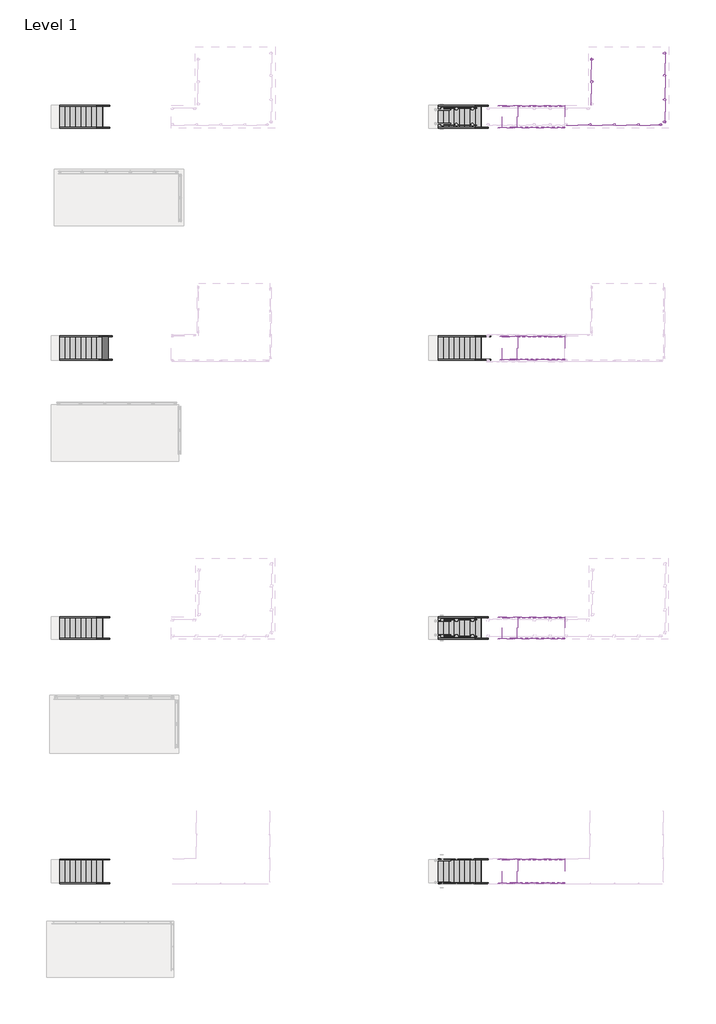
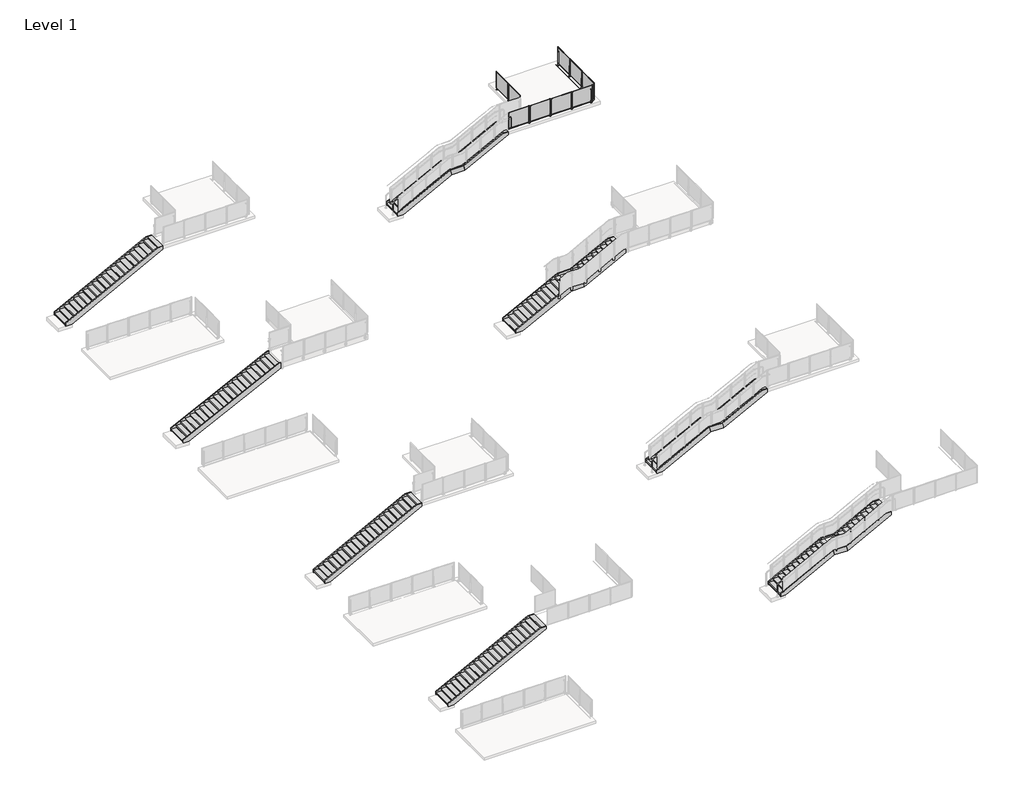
# One storey, part 28 of 28: 32 members, 12 stair flights, 4 proxies, 4 slabs, 3 railings.
"""IFC4 building model written with IfcOpenShell, lengths in millimetres."""

from ifc_helpers import new_model, si_unit, point, frame, frame_2d, origin, place, context, project, spatial, polyline, circle_curve, trimmed, segment, composite_curve, outline, extrude, transform, mapped, element, save
from components import building_element_proxy_d74b3768, building_element_proxy_bc1e0d3e, non_monolithic_landing_4f14bc7e, non_monolithic_landing_61f27d39, non_monolithic_landing_16e06536, non_monolithic_landing_1ae36870, stair_flight_dccb4828, stair_flight_ed2f0d5d, stair_flight_899ccd9d, stair_flight_947bd2ea, stair_flight_4eb0ff3a, stair_flight_83536842, stair_flight_37e924e8, stair_flight_37ca03c5, stair_flight_718682c8, stair_flight_34399b1a, stair_flight_f9da9db6, stair_flight_c7a47ad9

model = new_model("IFC4")

# Units and contexts
model_context = context("Model", 3, world=origin())
ifc_project = project(units=[si_unit("LENGTHUNIT", "METRE", prefix="MILLI")], contexts=[model_context])

# Site, building, storey
site = spatial("IfcSite", under=ifc_project)
building = spatial("IfcBuilding", under=site)
storey = spatial("IfcBuildingStorey", under=building, Name="Level 1", Elevation=0.0)

# Proxies
placement = place(None, origin())
building_element_proxy_shape = building_element_proxy_d74b3768(model_context)
element("IfcBuildingElementProxy", 1, Name="Baluster-End-Post-VIVA-STRUC-Top Mount : CORED INTO CONCRETE_TOP MOUNT STRUC_STRAIGHT", ObjectType="Baluster-End-Post-VIVA-STRUC-Top Mount : CORED INTO CONCRETE_TOP MOUNT STRUC_STRAIGHT", at=placement, inside=storey, context=model_context, shape_type="MappedRepresentation", body=[
    mapped(building_element_proxy_shape, transform((-7195.5231424, 8555.589491, 3047.492), x_axis=(0.0, 1.0, 0.0), y_axis=(-1.0, 0.0, 0.0), z_axis=(0.0, 0.0, 1.0))),
])
building_element_proxy_2_shape = building_element_proxy_bc1e0d3e(model_context)
element("IfcBuildingElementProxy", 2, Name="Baluster-End-Post-VIVA-STRUC-Top Mount : CORED INTO CONCRETE_TOP MOUNT STRUC_STRAIGHT", ObjectType="Baluster-End-Post-VIVA-STRUC-Top Mount : CORED INTO CONCRETE_TOP MOUNT STRUC_STRAIGHT", at=placement, inside=storey, context=model_context, shape_type="MappedRepresentation", body=[
    mapped(building_element_proxy_2_shape, transform((-7210.4813244, 8601.8839722, 3047.492), x_axis=(1.0, 0.0, 0.0), y_axis=(0.0, 1.0, 0.0), z_axis=(0.0, 0.0, 1.0))),
])
element("IfcBuildingElementProxy", 3, Name="Baluster-End-Post-VIVA-STRUC-Top Mount : CORED INTO CONCRETE_TOP MOUNT STRUC_STRAIGHT", ObjectType="Baluster-End-Post-VIVA-STRUC-Top Mount : CORED INTO CONCRETE_TOP MOUNT STRUC_STRAIGHT", at=placement, inside=storey, context=model_context, shape_type="MappedRepresentation", body=[
    mapped(building_element_proxy_shape, transform((-10830.7485244, 12038.7985341, 3047.492), x_axis=(0.0, -1.0, 0.0), y_axis=(1.0, 0.0, 0.0), z_axis=(0.0, 0.0, 1.0))),
])
element("IfcBuildingElementProxy", 4, Name="Baluster-End-Post-VIVA-STRUC-Top Mount : CORED INTO CONCRETE_TOP MOUNT STRUC_STRAIGHT", ObjectType="Baluster-End-Post-VIVA-STRUC-Top Mount : CORED INTO CONCRETE_TOP MOUNT STRUC_STRAIGHT", at=placement, inside=storey, context=model_context, shape_type="MappedRepresentation", body=[
    mapped(building_element_proxy_2_shape, transform((-7195.5231424, 12365.589491, 3047.492), x_axis=(0.0, 1.0, 0.0), y_axis=(-1.0, 0.0, 0.0), z_axis=(0.0, 0.0, 1.0))),
])

# Members
element("IfcMember", 5, ObjectType="Stringer - Paint - 2\" Width", at=placement, inside=storey, context=model_context, shape_type="SweptSolid", body=[
    extrude(outline(polyline([(190.3114112, -19005.2813244), (0.0, -19005.2813244), (0.0, -18682.8954208), (1513.1142857, -15770.1504208), (1830.6142857, -15847.698291), (190.3114112, -19005.2813244)])), frame((0.0, 9475.3913722, 0.0), z_axis=(0.0, 1.0, 0.0), x_axis=(0.0, 0.0, 1.0)), (0.0, 0.0, 1.0), 50.8),
])
element("IfcMember", 6, ObjectType="Stringer - Paint - 2\" Width", at=placement, inside=storey, context=model_context, shape_type="SweptSolid", body=[
    extrude(outline(polyline([(190.3114112, -19005.2813244), (0.0, -19005.2813244), (0.0, -18682.8954208), (1513.1142857, -15770.1504208), (1830.6142857, -15847.698291), (190.3114112, -19005.2813244)])), frame((0.0, 8326.1937722, 0.0), z_axis=(0.0, 1.0, 0.0), x_axis=(0.0, 0.0, 1.0)), (0.0, 0.0, 1.0), 50.8),
])
element("IfcMember", 7, ObjectType="Stringer - Paint - 2\" Width", at=placement, inside=storey, context=model_context, shape_type="SweptSolid", body=[
    extrude(outline(polyline([(1830.6142857, -15060.298291), (1513.1142857, -14982.7504208), (2880.5268033, -12350.4813244), (3048.0, -12350.4813244), (3048.0, -12716.830791), (1830.6142857, -15060.298291)])), frame((0.0, 9475.3913722, 0.0), z_axis=(0.0, 1.0, 0.0), x_axis=(0.0, 0.0, 1.0)), (0.0, 0.0, 1.0), 50.8),
])
element("IfcMember", 8, ObjectType="Stringer - Paint - 2\" Width", at=placement, inside=storey, context=model_context, shape_type="SweptSolid", body=[
    extrude(outline(polyline([(1830.6142857, -15060.298291), (1513.1142857, -14982.7504208), (2880.5268033, -12350.4813244), (3048.0, -12350.4813244), (3048.0, -12716.830791), (1830.6142857, -15060.298291)])), frame((0.0, 8326.1937722, 0.0), z_axis=(0.0, 1.0, 0.0), x_axis=(0.0, 0.0, 1.0)), (0.0, 0.0, 1.0), 50.8),
])
element("IfcMember", 9, ObjectType="Stringer - Paint - 2\" Width", at=placement, inside=storey, context=model_context, shape_type="SweptSolid", body=[
    extrude(outline(polyline([(1513.1142857, -14982.7504208), (1830.6142857, -15060.298291), (1830.6142857, -15847.698291), (1513.1142857, -15770.1504208), (1513.1142857, -14982.7504208)])), frame((0.0, 9475.3913722, 0.0), z_axis=(0.0, 1.0, 0.0), x_axis=(0.0, 0.0, 1.0)), (0.0, 0.0, 1.0), 50.8),
])
element("IfcMember", 10, ObjectType="Stringer - Paint - 2\" Width", at=placement, inside=storey, context=model_context, shape_type="SweptSolid", body=[
    extrude(outline(polyline([(190.3114112, -19005.2813244), (0.0, -19005.2813244), (0.0, -18572.6977615), (1513.1142857, -15659.9527615), (1881.4142857, -15749.908291), (190.3114112, -19005.2813244)])), frame((0.0, -2661.1276112, 0.0), z_axis=(0.0, 1.0, 0.0), x_axis=(0.0, 0.0, 1.0)), (0.0, 0.0, 1.0), 50.8),
])
element("IfcMember", 11, ObjectType="Stringer - Paint - 2\" Width", at=placement, inside=storey, context=model_context, shape_type="SweptSolid", body=[
    extrude(outline(polyline([(190.3114112, -19005.2813244), (0.0, -19005.2813244), (0.0, -18572.6977615), (1513.1142857, -15659.9527615), (1881.4142857, -15749.908291), (190.3114112, -19005.2813244)])), frame((0.0, -3912.9362112, 0.0), z_axis=(0.0, 1.0, 0.0), x_axis=(0.0, 0.0, 1.0)), (0.0, 0.0, 1.0), 50.8),
])
element("IfcMember", 12, ObjectType="Stringer - Paint - 2\" Width", at=placement, inside=storey, context=model_context, shape_type="SweptSolid", body=[
    extrude(outline(polyline([(1881.4142857, -14962.508291), (1513.1142857, -14872.5527615), (2823.281266, -12350.4813244), (3048.0, -12350.4813244), (3048.0, -12716.830791), (1881.4142857, -14962.508291)])), frame((0.0, -2661.1276112, 0.0), z_axis=(0.0, 1.0, 0.0), x_axis=(0.0, 0.0, 1.0)), (0.0, 0.0, 1.0), 50.8),
])
element("IfcMember", 13, ObjectType="Stringer - Paint - 2\" Width", at=placement, inside=storey, context=model_context, shape_type="SweptSolid", body=[
    extrude(outline(polyline([(1881.4142857, -14962.508291), (1513.1142857, -14872.5527615), (2823.281266, -12350.4813244), (3048.0, -12350.4813244), (3048.0, -12716.830791), (1881.4142857, -14962.508291)])), frame((0.0, -3912.9362112, 0.0), z_axis=(0.0, 1.0, 0.0), x_axis=(0.0, 0.0, 1.0)), (0.0, 0.0, 1.0), 50.8),
])
element("IfcMember", 14, ObjectType="Stringer - Paint - 2\" Width", at=placement, inside=storey, context=model_context, shape_type="SweptSolid", body=[
    extrude(outline(polyline([(1513.1142857, -14872.5527615), (1881.4142857, -14962.508291), (1881.4142857, -15749.908291), (1513.1142857, -15659.9527615), (1513.1142857, -14872.5527615)])), frame((0.0, -2661.1276112, 0.0), z_axis=(0.0, 1.0, 0.0), x_axis=(0.0, 0.0, 1.0)), (0.0, 0.0, 1.0), 50.8),
])
element("IfcMember", 15, ObjectType="Stringer - Paint - 2\" Width", at=placement, inside=storey, context=model_context, shape_type="SweptSolid", body=[
    extrude(outline(polyline([(1881.4142857, -15749.908291), (1513.1142857, -15659.9527615), (1513.1142857, -14872.5527615), (1881.4142857, -14962.508291), (1881.4142857, -15749.908291)])), frame((0.0, -3912.9362112, 0.0), z_axis=(0.0, 1.0, 0.0), x_axis=(0.0, 0.0, 1.0)), (0.0, 0.0, 1.0), 50.8),
])
element("IfcMember", 16, ObjectType="Stringer - Paint - 2\" Width", at=placement, inside=storey, context=model_context, shape_type="SweptSolid", body=[
    extrude(outline(polyline([(190.3114112, -19005.2813244), (0.0, -19005.2813244), (0.0, -18682.8954208), (1513.1142857, -15770.1504208), (1830.6142857, -15847.698291), (190.3114112, -19005.2813244)])), frame((0.0, -17453.1578387, 0.0), z_axis=(0.0, 1.0, 0.0), x_axis=(0.0, 0.0, 1.0)), (0.0, 0.0, 1.0), 50.8),
])
element("IfcMember", 17, ObjectType="Stringer - Paint - 2\" Width", at=placement, inside=storey, context=model_context, shape_type="SweptSolid", body=[
    extrude(outline(polyline([(190.3114112, -19005.2813244), (0.0, -19005.2813244), (0.0, -18682.8954208), (1513.1142857, -15770.1504208), (1830.6142857, -15847.698291), (190.3114112, -19005.2813244)])), frame((0.0, -18602.3554387, 0.0), z_axis=(0.0, 1.0, 0.0), x_axis=(0.0, 0.0, 1.0)), (0.0, 0.0, 1.0), 50.8),
])
element("IfcMember", 18, ObjectType="Stringer - Paint - 2\" Width", at=placement, inside=storey, context=model_context, shape_type="SweptSolid", body=[
    extrude(outline(polyline([(1830.6142857, -15060.298291), (1513.1142857, -14982.7504208), (2880.5268033, -12350.4813244), (3048.0, -12350.4813244), (3048.0, -12716.830791), (1830.6142857, -15060.298291)])), frame((0.0, -17453.1578387, 0.0), z_axis=(0.0, 1.0, 0.0), x_axis=(0.0, 0.0, 1.0)), (0.0, 0.0, 1.0), 50.8),
])
element("IfcMember", 19, ObjectType="Stringer - Paint - 2\" Width", at=placement, inside=storey, context=model_context, shape_type="SweptSolid", body=[
    extrude(outline(polyline([(1830.6142857, -15060.298291), (1513.1142857, -14982.7504208), (2880.5268033, -12350.4813244), (3048.0, -12350.4813244), (3048.0, -12716.830791), (1830.6142857, -15060.298291)])), frame((0.0, -18602.3554387, 0.0), z_axis=(0.0, 1.0, 0.0), x_axis=(0.0, 0.0, 1.0)), (0.0, 0.0, 1.0), 50.8),
])
element("IfcMember", 20, ObjectType="Stringer - Paint - 2\" Width", at=placement, inside=storey, context=model_context, shape_type="SweptSolid", body=[
    extrude(outline(polyline([(1513.1142857, -14982.7504208), (1830.6142857, -15060.298291), (1830.6142857, -15847.698291), (1513.1142857, -15770.1504208), (1513.1142857, -14982.7504208)])), frame((0.0, -17453.1578387, 0.0), z_axis=(0.0, 1.0, 0.0), x_axis=(0.0, 0.0, 1.0)), (0.0, 0.0, 1.0), 50.8),
])
element("IfcMember", 21, ObjectType="Stringer - Paint - 2\" Width", at=placement, inside=storey, context=model_context, shape_type="SweptSolid", body=[
    extrude(outline(polyline([(190.3114112, -19005.2813244), (0.0, -19005.2813244), (0.0, -18682.8954208), (1513.1142857, -15770.1504208), (1830.6142857, -15847.698291), (190.3114112, -19005.2813244)])), frame((0.0, -30221.1689116, 0.0), z_axis=(0.0, 1.0, 0.0), x_axis=(0.0, 0.0, 1.0)), (0.0, 0.0, 1.0), 50.8),
])
element("IfcMember", 22, ObjectType="Stringer - Paint - 2\" Width", at=placement, inside=storey, context=model_context, shape_type="SweptSolid", body=[
    extrude(outline(polyline([(190.3114112, -19005.2813244), (0.0, -19005.2813244), (0.0, -18682.8954208), (1513.1142857, -15770.1504208), (1830.6142857, -15847.698291), (190.3114112, -19005.2813244)])), frame((0.0, -31472.9775116, 0.0), z_axis=(0.0, 1.0, 0.0), x_axis=(0.0, 0.0, 1.0)), (0.0, 0.0, 1.0), 50.8),
])
element("IfcMember", 23, ObjectType="Stringer - Paint - 2\" Width", at=placement, inside=storey, context=model_context, shape_type="SweptSolid", body=[
    extrude(outline(polyline([(1830.6142857, -15060.298291), (1513.1142857, -14982.7504208), (2880.5268033, -12350.4813244), (3048.0, -12350.4813244), (3048.0, -12716.830791), (1830.6142857, -15060.298291)])), frame((0.0, -30221.1689116, 0.0), z_axis=(0.0, 1.0, 0.0), x_axis=(0.0, 0.0, 1.0)), (0.0, 0.0, 1.0), 50.8),
])
element("IfcMember", 24, ObjectType="Stringer - Paint - 2\" Width", at=placement, inside=storey, context=model_context, shape_type="SweptSolid", body=[
    extrude(outline(polyline([(1830.6142857, -15060.298291), (1513.1142857, -14982.7504208), (2880.5268033, -12350.4813244), (3048.0, -12350.4813244), (3048.0, -12716.830791), (1830.6142857, -15060.298291)])), frame((0.0, -31472.9775116, 0.0), z_axis=(0.0, 1.0, 0.0), x_axis=(0.0, 0.0, 1.0)), (0.0, 0.0, 1.0), 50.8),
])
element("IfcMember", 25, ObjectType="Stringer - Paint - 2\" Width", at=placement, inside=storey, context=model_context, shape_type="SweptSolid", body=[
    extrude(outline(polyline([(1513.1142857, -14982.7504208), (1830.6142857, -15060.298291), (1830.6142857, -15847.698291), (1513.1142857, -15770.1504208), (1513.1142857, -14982.7504208)])), frame((0.0, -30221.1689116, 0.0), z_axis=(0.0, 1.0, 0.0), x_axis=(0.0, 0.0, 1.0)), (0.0, 0.0, 1.0), 50.8),
])
element("IfcMember", 26, ObjectType="Stringer - Paint - 2\" Width", at=placement, inside=storey, context=model_context, shape_type="SweptSolid", body=[
    extrude(outline(polyline([(1830.6142857, -15847.698291), (1513.1142857, -15770.1504208), (1513.1142857, -14982.7504208), (1830.6142857, -15060.298291), (1830.6142857, -15847.698291)])), frame((0.0, -31472.9775116, 0.0), z_axis=(0.0, 1.0, 0.0), x_axis=(0.0, 0.0, 1.0)), (0.0, 0.0, 1.0), 50.8),
])
element("IfcMember", 27, ObjectType="Stringer - Paint - 2\" Width", at=placement, inside=storey, context=model_context, shape_type="SweptSolid", body=[
    extrude(outline(polyline([(1830.6142857, -15847.698291), (1513.1142857, -15770.1504208), (1513.1142857, -14982.7504208), (1830.6142857, -15060.298291), (1830.6142857, -15847.698291)])), frame((0.0, 8326.1937722, 0.0), z_axis=(0.0, 1.0, 0.0), x_axis=(0.0, 0.0, 1.0)), (0.0, 0.0, 1.0), 50.8),
])
element("IfcMember", 28, ObjectType="Stringer - Paint - 2\" Width", at=placement, inside=storey, context=model_context, shape_type="SweptSolid", body=[
    extrude(outline(polyline([(1830.6142857, -15847.698291), (1513.1142857, -15770.1504208), (1513.1142857, -14982.7504208), (1830.6142857, -15060.298291), (1830.6142857, -15847.698291)])), frame((0.0, -18602.3554387, 0.0), z_axis=(0.0, 1.0, 0.0), x_axis=(0.0, 0.0, 1.0)), (0.0, 0.0, 1.0), 50.8),
])
element("IfcMember", 29, ObjectType="Stringer - Paint - 2\" Width", at=placement, inside=storey, context=model_context, shape_type="SweptSolid", body=[
    extrude(outline(polyline([(188.6177165, -38944.2813244), (0.0, -38944.2813244), (0.0, -38609.9718746), (2743.6812645, -33076.8813244), (3048.0, -33076.8813244), (3048.0, -33177.860386), (188.6177165, -38944.2813244)])), frame((0.0, -2662.1362112, 0.0), z_axis=(0.0, 1.0, 0.0), x_axis=(0.0, 0.0, 1.0)), (0.0, 0.0, 1.0), 50.8),
])
element("IfcMember", 30, ObjectType="Stringer - Paint - 2\" Width", at=placement, inside=storey, context=model_context, shape_type="SweptSolid", body=[
    extrude(outline(polyline([(188.6177165, -38944.2813244), (0.0, -38944.2813244), (0.0, -38609.9718746), (2743.6812645, -33076.8813244), (3048.0, -33076.8813244), (3048.0, -33177.860386), (188.6177165, -38944.2813244)])), frame((0.0, -3912.9362112, 0.0), z_axis=(0.0, 1.0, 0.0), x_axis=(0.0, 0.0, 1.0)), (0.0, 0.0, 1.0), 50.8),
])
element("IfcMember", 31, ObjectType="Stringer - Paint - 2\" Width", at=placement, inside=storey, context=model_context, shape_type="SweptSolid", body=[
    extrude(outline(polyline([(190.3114112, -38944.2813244), (0.0, -38944.2813244), (0.0, -38621.8954208), (2880.5268033, -33076.8813244), (3048.0, -33076.8813244), (3048.0, -33443.230791), (190.3114112, -38944.2813244)])), frame((0.0, 9475.3937722, 0.0), z_axis=(0.0, 1.0, 0.0), x_axis=(0.0, 0.0, 1.0)), (0.0, 0.0, 1.0), 50.8),
])
element("IfcMember", 32, ObjectType="Stringer - Paint - 2\" Width", at=placement, inside=storey, context=model_context, shape_type="SweptSolid", body=[
    extrude(outline(polyline([(190.3114112, -38944.2813244), (0.0, -38944.2813244), (0.0, -38621.8954208), (2880.5268033, -33076.8813244), (3048.0, -33076.8813244), (3048.0, -33443.230791), (190.3114112, -38944.2813244)])), frame((0.0, 8326.1937722, 0.0), z_axis=(0.0, 1.0, 0.0), x_axis=(0.0, 0.0, 1.0)), (0.0, 0.0, 1.0), 50.8),
])
element("IfcMember", 33, ObjectType="Stringer - Paint - 2\" Width", at=placement, inside=storey, context=model_context, shape_type="SweptSolid", body=[
    extrude(outline(polyline([(190.3114112, -38944.2813244), (0.0, -38944.2813244), (0.0, -38621.8954208), (2880.5268033, -33076.8813244), (3048.0, -33076.8813244), (3048.0, -33443.230791), (190.3114112, -38944.2813244)])), frame((0.0, -17453.1554387, 0.0), z_axis=(0.0, 1.0, 0.0), x_axis=(0.0, 0.0, 1.0)), (0.0, 0.0, 1.0), 50.8),
])
element("IfcMember", 34, ObjectType="Stringer - Paint - 2\" Width", at=placement, inside=storey, context=model_context, shape_type="SweptSolid", body=[
    extrude(outline(polyline([(190.3114112, -38944.2813244), (0.0, -38944.2813244), (0.0, -38621.8954208), (2880.5268033, -33076.8813244), (3048.0, -33076.8813244), (3048.0, -33443.230791), (190.3114112, -38944.2813244)])), frame((0.0, -18602.3554387, 0.0), z_axis=(0.0, 1.0, 0.0), x_axis=(0.0, 0.0, 1.0)), (0.0, 0.0, 1.0), 50.8),
])
element("IfcMember", 35, ObjectType="Stringer - Paint - 2\" Width", at=placement, inside=storey, context=model_context, shape_type="SweptSolid", body=[
    extrude(outline(polyline([(190.3114112, -38944.2813244), (0.0, -38944.2813244), (0.0, -38621.8954208), (2880.5268033, -33076.8813244), (3048.0, -33076.8813244), (3048.0, -33443.230791), (190.3114112, -38944.2813244)])), frame((0.0, -30222.1775116, 0.0), z_axis=(0.0, 1.0, 0.0), x_axis=(0.0, 0.0, 1.0)), (0.0, 0.0, 1.0), 50.8),
])
element("IfcMember", 36, ObjectType="Stringer - Paint - 2\" Width", at=placement, inside=storey, context=model_context, shape_type="SweptSolid", body=[
    extrude(outline(polyline([(190.3114112, -38944.2813244), (0.0, -38944.2813244), (0.0, -38621.8954208), (2880.5268033, -33076.8813244), (3048.0, -33076.8813244), (3048.0, -33443.230791), (190.3114112, -38944.2813244)])), frame((0.0, -31472.9775116, 0.0), z_axis=(0.0, 1.0, 0.0), x_axis=(0.0, 0.0, 1.0)), (0.0, 0.0, 1.0), 50.8),
])

# Railings
element("IfcRailing", 37, ObjectType="Metal-Panel-VIVA-STRUC-Top_Core-Straight", at=placement, inside=storey, context=model_context, shape_type="SweptSolid", body=[
    extrude(outline(composite_curve([segment(trimmed(circle_curve(frame_2d((8601.8839722, 3047.746)), 0.254), [point((8601.6299722, 3047.746))], [point((8602.1379722, 3047.746))], False, "CARTESIAN"), True, "CONTINUOUS"), segment(trimmed(circle_curve(frame_2d((8601.8839722, 3047.746)), 0.254), [point((8602.1379722, 3047.746))], [point((8601.6299722, 3047.746))], False, "CARTESIAN"), True, "CONTINUOUS")], self_intersect=False)), frame((-12290.4813244, 0.0, 0.0), z_axis=(1.0, 0.0, 0.0), x_axis=(0.0, 1.0, 0.0)), (0.0, 0.0, 1.0), 5080.0),
    extrude(outline(composite_curve([segment(trimmed(circle_curve(frame_2d((8601.8839722, 3047.746)), 0.254), [point((8601.6299722, 3047.746))], [point((8602.1379722, 3047.746))], False, "CARTESIAN"), True, "CONTINUOUS"), segment(trimmed(circle_curve(frame_2d((8601.8839722, 3047.746)), 0.254), [point((8602.1379722, 3047.746))], [point((8601.6299722, 3047.746))], False, "CARTESIAN"), True, "CONTINUOUS")], self_intersect=False)), frame((-12290.4813244, 0.0, 0.0), z_axis=(1.0, 0.0, 0.0), x_axis=(0.0, 1.0, 0.0)), (0.0, 0.0, 1.0), 5080.0),
    extrude(outline(polyline([(-8439.6548675, 8475.0349722), (-8439.6548675, 8478.0349722), (-7251.3077814, 8478.0349722), (-7251.3077814, 8475.0349722), (-8439.6548675, 8475.0349722)])), frame((0.0, 0.0, 3124.1959569), z_axis=(0.0, 0.0, 1.0), x_axis=(1.0, 0.0, 0.0)), (0.0, 0.0, 1.0), 990.5826861),
    extrude(outline(polyline([(3098.7959569, -8465.0548675), (3098.7959569, -7225.9077814), (4140.1786431, -7225.9077814), (4140.1786431, -8465.0548675), (3098.7959569, -8465.0548675)]), holes=[polyline([(4114.7786431, -8439.6548675), (4114.7786431, -7251.3077814), (3124.1959569, -7251.3077814), (3124.1959569, -8439.6548675), (4114.7786431, -8439.6548675)])]), frame((0.0, 8468.5099722, 0.0), z_axis=(0.0, 1.0, 0.0), x_axis=(0.0, 0.0, 1.0)), (0.0, 0.0, 1.0), 9.525),
    extrude(outline(polyline([(-8518.5820437, 8485.1455722), (-8442.3806052, 8485.1455722), (-8442.3806052, 8478.0335722), (-8518.5820437, 8478.0335722), (-8518.5820437, 8485.1455722)])), frame((0.0, 0.0, 3617.976), z_axis=(0.0, 0.0, 1.0), x_axis=(1.0, 0.0, 0.0)), (0.0, 0.0, 1.0), 50.8),
    extrude(outline(polyline([(-8518.5820437, 8485.1455722), (-8442.3806052, 8485.1455722), (-8442.3806052, 8478.0335722), (-8518.5820437, 8478.0335722), (-8518.5820437, 8485.1455722)])), frame((0.0, 0.0, 3160.776), z_axis=(0.0, 0.0, 1.0), x_axis=(1.0, 0.0, 0.0)), (0.0, 0.0, 1.0), 50.8),
    extrude(outline(composite_curve([segment(trimmed(circle_curve(frame_2d((-8480.4813244, 8507.3705722)), 65.8876), [point((-8480.4813244, 8441.4829722))], [point((-8480.4813244, 8573.2581722))], False, "CARTESIAN"), True, "CONTINUOUS"), segment(trimmed(circle_curve(frame_2d((-8480.4813244, 8507.3705722)), 65.8876), [point((-8480.4813244, 8573.2581722))], [point((-8480.4813244, 8441.4829722))], False, "CARTESIAN"), True, "CONTINUOUS")], self_intersect=False)), frame((0.0, 0.0, 3048.0), z_axis=(0.0, 0.0, 1.0), x_axis=(1.0, 0.0, 0.0)), (0.0, 0.0, 1.0), 2.9821299),
    extrude(outline(polyline([(-8488.4209161, 8529.5955722), (-8472.5417328, 8529.5955722), (-8472.5417328, 8485.1455722), (-8488.4209161, 8485.1455722), (-8488.4209161, 8529.5955722)])), frame((0.0, 0.0, 2946.4), z_axis=(0.0, 0.0, 1.0), x_axis=(1.0, 0.0, 0.0)), (0.0, 0.0, 1.0), 762.0),
    extrude(outline(polyline([(-9709.6548675, 8475.0349722), (-9709.6548675, 8478.0349722), (-8521.3077814, 8478.0349722), (-8521.3077814, 8475.0349722), (-9709.6548675, 8475.0349722)])), frame((0.0, 0.0, 3124.1959569), z_axis=(0.0, 0.0, 1.0), x_axis=(1.0, 0.0, 0.0)), (0.0, 0.0, 1.0), 990.5826861),
    extrude(outline(polyline([(3098.7959569, -9735.0548675), (3098.7959569, -8495.9077814), (4140.1786431, -8495.9077814), (4140.1786431, -9735.0548675), (3098.7959569, -9735.0548675)]), holes=[polyline([(4114.7786431, -9709.6548675), (4114.7786431, -8521.3077814), (3124.1959569, -8521.3077814), (3124.1959569, -9709.6548675), (4114.7786431, -9709.6548675)])]), frame((0.0, 8468.5099722, 0.0), z_axis=(0.0, 1.0, 0.0), x_axis=(0.0, 0.0, 1.0)), (0.0, 0.0, 1.0), 9.525),
    extrude(outline(polyline([(-9788.5820437, 8485.1455722), (-9712.3806052, 8485.1455722), (-9712.3806052, 8478.0335722), (-9788.5820437, 8478.0335722), (-9788.5820437, 8485.1455722)])), frame((0.0, 0.0, 3617.976), z_axis=(0.0, 0.0, 1.0), x_axis=(1.0, 0.0, 0.0)), (0.0, 0.0, 1.0), 50.8),
    extrude(outline(polyline([(-9788.5820437, 8485.1455722), (-9712.3806052, 8485.1455722), (-9712.3806052, 8478.0335722), (-9788.5820437, 8478.0335722), (-9788.5820437, 8485.1455722)])), frame((0.0, 0.0, 3160.776), z_axis=(0.0, 0.0, 1.0), x_axis=(1.0, 0.0, 0.0)), (0.0, 0.0, 1.0), 50.8),
    extrude(outline(composite_curve([segment(trimmed(circle_curve(frame_2d((-9750.4813244, 8507.3705722)), 65.8876), [point((-9750.4813244, 8441.4829722))], [point((-9750.4813244, 8573.2581722))], False, "CARTESIAN"), True, "CONTINUOUS"), segment(trimmed(circle_curve(frame_2d((-9750.4813244, 8507.3705722)), 65.8876), [point((-9750.4813244, 8573.2581722))], [point((-9750.4813244, 8441.4829722))], False, "CARTESIAN"), True, "CONTINUOUS")], self_intersect=False)), frame((0.0, 0.0, 3048.0), z_axis=(0.0, 0.0, 1.0), x_axis=(1.0, 0.0, 0.0)), (0.0, 0.0, 1.0), 2.9821299),
    extrude(outline(polyline([(-9758.4209161, 8529.5955722), (-9742.5417328, 8529.5955722), (-9742.5417328, 8485.1455722), (-9758.4209161, 8485.1455722), (-9758.4209161, 8529.5955722)])), frame((0.0, 0.0, 2946.4), z_axis=(0.0, 0.0, 1.0), x_axis=(1.0, 0.0, 0.0)), (0.0, 0.0, 1.0), 762.0),
    extrude(outline(polyline([(-10979.6548675, 8475.0349722), (-10979.6548675, 8478.0349722), (-9791.3077814, 8478.0349722), (-9791.3077814, 8475.0349722), (-10979.6548675, 8475.0349722)])), frame((0.0, 0.0, 3124.1959569), z_axis=(0.0, 0.0, 1.0), x_axis=(1.0, 0.0, 0.0)), (0.0, 0.0, 1.0), 990.5826861),
    extrude(outline(polyline([(3098.7959569, -11005.0548675), (3098.7959569, -9765.9077814), (4140.1786431, -9765.9077814), (4140.1786431, -11005.0548675), (3098.7959569, -11005.0548675)]), holes=[polyline([(4114.7786431, -10979.6548675), (4114.7786431, -9791.3077814), (3124.1959569, -9791.3077814), (3124.1959569, -10979.6548675), (4114.7786431, -10979.6548675)])]), frame((0.0, 8468.5099722, 0.0), z_axis=(0.0, 1.0, 0.0), x_axis=(0.0, 0.0, 1.0)), (0.0, 0.0, 1.0), 9.525),
    extrude(outline(polyline([(-11058.5820437, 8485.1455722), (-10982.3806052, 8485.1455722), (-10982.3806052, 8478.0335722), (-11058.5820437, 8478.0335722), (-11058.5820437, 8485.1455722)])), frame((0.0, 0.0, 3617.976), z_axis=(0.0, 0.0, 1.0), x_axis=(1.0, 0.0, 0.0)), (0.0, 0.0, 1.0), 50.8),
    extrude(outline(polyline([(-11058.5820437, 8485.1455722), (-10982.3806052, 8485.1455722), (-10982.3806052, 8478.0335722), (-11058.5820437, 8478.0335722), (-11058.5820437, 8485.1455722)])), frame((0.0, 0.0, 3160.776), z_axis=(0.0, 0.0, 1.0), x_axis=(1.0, 0.0, 0.0)), (0.0, 0.0, 1.0), 50.8),
    extrude(outline(composite_curve([segment(trimmed(circle_curve(frame_2d((-11020.4813244, 8507.3705722)), 65.8876), [point((-11020.4813244, 8441.4829722))], [point((-11020.4813244, 8573.2581722))], False, "CARTESIAN"), True, "CONTINUOUS"), segment(trimmed(circle_curve(frame_2d((-11020.4813244, 8507.3705722)), 65.8876), [point((-11020.4813244, 8573.2581722))], [point((-11020.4813244, 8441.4829722))], False, "CARTESIAN"), True, "CONTINUOUS")], self_intersect=False)), frame((0.0, 0.0, 3048.0), z_axis=(0.0, 0.0, 1.0), x_axis=(1.0, 0.0, 0.0)), (0.0, 0.0, 1.0), 2.9821299),
    extrude(outline(polyline([(-11028.4209161, 8529.5955722), (-11012.5417328, 8529.5955722), (-11012.5417328, 8485.1455722), (-11028.4209161, 8485.1455722), (-11028.4209161, 8529.5955722)])), frame((0.0, 0.0, 2946.4), z_axis=(0.0, 0.0, 1.0), x_axis=(1.0, 0.0, 0.0)), (0.0, 0.0, 1.0), 762.0),
    extrude(outline(polyline([(-12249.6548675, 8475.0349722), (-12249.6548675, 8478.0349722), (-11061.3077814, 8478.0349722), (-11061.3077814, 8475.0349722), (-12249.6548675, 8475.0349722)])), frame((0.0, 0.0, 3124.1959569), z_axis=(0.0, 0.0, 1.0), x_axis=(1.0, 0.0, 0.0)), (0.0, 0.0, 1.0), 990.5826861),
    extrude(outline(polyline([(3098.7959569, -12275.0548675), (3098.7959569, -11035.9077814), (4140.1786431, -11035.9077814), (4140.1786431, -12275.0548675), (3098.7959569, -12275.0548675)]), holes=[polyline([(4114.7786431, -12249.6548675), (4114.7786431, -11061.3077814), (3124.1959569, -11061.3077814), (3124.1959569, -12249.6548675), (4114.7786431, -12249.6548675)])]), frame((0.0, 8468.5099722, 0.0), z_axis=(0.0, 1.0, 0.0), x_axis=(0.0, 0.0, 1.0)), (0.0, 0.0, 1.0), 9.525),
])
element("IfcRailing", 38, ObjectType="Metal-Panel-VIVA-STRUC-Top_Core-Straight", at=placement, inside=storey, context=model_context, shape_type="SweptSolid", body=[
    extrude(outline(composite_curve([segment(trimmed(circle_curve(frame_2d((3047.746, -10830.7485244)), 0.254), [point((3047.746, -10830.4945244))], [point((3047.746, -10831.0025244))], False, "CARTESIAN"), True, "CONTINUOUS"), segment(trimmed(circle_curve(frame_2d((3047.746, -10830.7485244)), 0.254), [point((3047.746, -10831.0025244))], [point((3047.746, -10830.4945244))], False, "CARTESIAN"), True, "CONTINUOUS")], self_intersect=False)), frame((0.0, 9498.7985341, 0.0), z_axis=(0.0, 1.0, 0.0), x_axis=(0.0, 0.0, 1.0)), (0.0, 0.0, 1.0), 2540.0),
    extrude(outline(composite_curve([segment(trimmed(circle_curve(frame_2d((3047.746, -10830.7485244)), 0.254), [point((3047.746, -10830.4945244))], [point((3047.746, -10831.0025244))], False, "CARTESIAN"), True, "CONTINUOUS"), segment(trimmed(circle_curve(frame_2d((3047.746, -10830.7485244)), 0.254), [point((3047.746, -10831.0025244))], [point((3047.746, -10830.4945244))], False, "CARTESIAN"), True, "CONTINUOUS")], self_intersect=False)), frame((0.0, 9498.7985341, 0.0), z_axis=(0.0, 1.0, 0.0), x_axis=(0.0, 0.0, 1.0)), (0.0, 0.0, 1.0), 2540.0),
    extrude(outline(polyline([(-10957.5975244, 10809.624991), (-10957.5975244, 11997.9720772), (-10954.5975244, 11997.9720772), (-10954.5975244, 10809.624991), (-10957.5975244, 10809.624991)])), frame((0.0, 0.0, 3124.1959569), z_axis=(0.0, 0.0, 1.0), x_axis=(1.0, 0.0, 0.0)), (0.0, 0.0, 1.0), 990.5826861),
    extrude(outline(polyline([(10784.224991, 3098.7959569), (10784.224991, 4140.1786431), (12023.3720772, 4140.1786431), (12023.3720772, 3098.7959569), (10784.224991, 3098.7959569)]), holes=[polyline([(10809.624991, 4114.7786431), (10809.624991, 3124.1959569), (11997.9720772, 3124.1959569), (11997.9720772, 4114.7786431), (10809.624991, 4114.7786431)])]), frame((-10964.1225244, 0.0, 0.0), z_axis=(1.0, 0.0, 0.0), x_axis=(0.0, 1.0, 0.0)), (0.0, 0.0, 1.0), 9.525),
    extrude(outline(polyline([(-10947.4869244, 10730.6978149), (-10954.5989244, 10730.6978149), (-10954.5989244, 10806.8992534), (-10947.4869244, 10806.8992534), (-10947.4869244, 10730.6978149)])), frame((0.0, 0.0, 3617.976), z_axis=(0.0, 0.0, 1.0), x_axis=(1.0, 0.0, 0.0)), (0.0, 0.0, 1.0), 50.8),
    extrude(outline(polyline([(-10947.4869244, 10730.6978149), (-10954.5989244, 10730.6978149), (-10954.5989244, 10806.8992534), (-10947.4869244, 10806.8992534), (-10947.4869244, 10730.6978149)])), frame((0.0, 0.0, 3160.776), z_axis=(0.0, 0.0, 1.0), x_axis=(1.0, 0.0, 0.0)), (0.0, 0.0, 1.0), 50.8),
    extrude(outline(composite_curve([segment(trimmed(circle_curve(frame_2d((-10925.2619244, 10768.7985341)), 65.8876), [point((-10991.1495244, 10768.7985341))], [point((-10859.3743244, 10768.7985341))], False, "CARTESIAN"), True, "CONTINUOUS"), segment(trimmed(circle_curve(frame_2d((-10925.2619244, 10768.7985341)), 65.8876), [point((-10859.3743244, 10768.7985341))], [point((-10991.1495244, 10768.7985341))], False, "CARTESIAN"), True, "CONTINUOUS")], self_intersect=False)), frame((0.0, 0.0, 3048.0), z_axis=(0.0, 0.0, 1.0), x_axis=(1.0, 0.0, 0.0)), (0.0, 0.0, 1.0), 2.9821299),
    extrude(outline(polyline([(-10903.0369244, 10760.8589425), (-10947.4869244, 10760.8589425), (-10947.4869244, 10776.7381258), (-10903.0369244, 10776.7381258), (-10903.0369244, 10760.8589425)])), frame((0.0, 0.0, 2946.4), z_axis=(0.0, 0.0, 1.0), x_axis=(1.0, 0.0, 0.0)), (0.0, 0.0, 1.0), 762.0),
    extrude(outline(polyline([(-10957.5975244, 9539.624991), (-10957.5975244, 10727.9720772), (-10954.5975244, 10727.9720772), (-10954.5975244, 9539.624991), (-10957.5975244, 9539.624991)])), frame((0.0, 0.0, 3124.1959569), z_axis=(0.0, 0.0, 1.0), x_axis=(1.0, 0.0, 0.0)), (0.0, 0.0, 1.0), 990.5826861),
    extrude(outline(polyline([(9514.224991, 3098.7959569), (9514.224991, 4140.1786431), (10753.3720772, 4140.1786431), (10753.3720772, 3098.7959569), (9514.224991, 3098.7959569)]), holes=[polyline([(9539.624991, 4114.7786431), (9539.624991, 3124.1959569), (10727.9720772, 3124.1959569), (10727.9720772, 4114.7786431), (9539.624991, 4114.7786431)])]), frame((-10964.1225244, 0.0, 0.0), z_axis=(1.0, 0.0, 0.0), x_axis=(0.0, 1.0, 0.0)), (0.0, 0.0, 1.0), 9.525),
])
element("IfcRailing", 39, ObjectType="Metal-Panel-VIVA-STRUC-Top_Core-Straight", at=placement, inside=storey, context=model_context, shape_type="SweptSolid", body=[
    extrude(outline(composite_curve([segment(trimmed(circle_curve(frame_2d((3047.746, -7195.5231424)), 0.254), [point((3047.746, -7195.2691424))], [point((3047.746, -7195.7771424))], False, "CARTESIAN"), True, "CONTINUOUS"), segment(trimmed(circle_curve(frame_2d((3047.746, -7195.5231424)), 0.254), [point((3047.746, -7195.7771424))], [point((3047.746, -7195.2691424))], False, "CARTESIAN"), True, "CONTINUOUS")], self_intersect=False)), frame((0.0, 8555.589491, 0.0), z_axis=(0.0, 1.0, 0.0), x_axis=(0.0, 0.0, 1.0)), (0.0, 0.0, 1.0), 3810.0),
    extrude(outline(composite_curve([segment(trimmed(circle_curve(frame_2d((3047.746, -7195.5231424)), 0.254), [point((3047.746, -7195.2691424))], [point((3047.746, -7195.7771424))], False, "CARTESIAN"), True, "CONTINUOUS"), segment(trimmed(circle_curve(frame_2d((3047.746, -7195.5231424)), 0.254), [point((3047.746, -7195.7771424))], [point((3047.746, -7195.2691424))], False, "CARTESIAN"), True, "CONTINUOUS")], self_intersect=False)), frame((0.0, 8555.589491, 0.0), z_axis=(0.0, 1.0, 0.0), x_axis=(0.0, 0.0, 1.0)), (0.0, 0.0, 1.0), 3810.0),
    extrude(outline(polyline([(-7068.6741424, 11136.415948), (-7071.6741424, 11136.415948), (-7071.6741424, 12324.7630341), (-7068.6741424, 12324.7630341), (-7068.6741424, 11136.415948)])), frame((0.0, 0.0, 3124.1959569), z_axis=(0.0, 0.0, 1.0), x_axis=(1.0, 0.0, 0.0)), (0.0, 0.0, 1.0), 990.5826861),
    extrude(outline(polyline([(11111.015948, 4140.1786431), (12350.1630341, 4140.1786431), (12350.1630341, 3098.7959569), (11111.015948, 3098.7959569), (11111.015948, 4140.1786431)]), holes=[polyline([(11136.415948, 3124.1959569), (12324.7630341, 3124.1959569), (12324.7630341, 4114.7786431), (11136.415948, 4114.7786431), (11136.415948, 3124.1959569)])]), frame((-7071.6741424, 0.0, 0.0), z_axis=(1.0, 0.0, 0.0), x_axis=(0.0, 1.0, 0.0)), (0.0, 0.0, 1.0), 9.525),
    extrude(outline(polyline([(-7078.7847424, 11057.4887718), (-7078.7847424, 11133.6902103), (-7071.6727424, 11133.6902103), (-7071.6727424, 11057.4887718), (-7078.7847424, 11057.4887718)])), frame((0.0, 0.0, 3617.976), z_axis=(0.0, 0.0, 1.0), x_axis=(1.0, 0.0, 0.0)), (0.0, 0.0, 1.0), 50.8),
    extrude(outline(polyline([(-7078.7847424, 11057.4887718), (-7078.7847424, 11133.6902103), (-7071.6727424, 11133.6902103), (-7071.6727424, 11057.4887718), (-7078.7847424, 11057.4887718)])), frame((0.0, 0.0, 3160.776), z_axis=(0.0, 0.0, 1.0), x_axis=(1.0, 0.0, 0.0)), (0.0, 0.0, 1.0), 50.8),
    extrude(outline(composite_curve([segment(trimmed(circle_curve(frame_2d((-7101.0097424, 11095.589491)), 65.8876), [point((-7035.1221424, 11095.589491))], [point((-7166.8973424, 11095.589491))], False, "CARTESIAN"), True, "CONTINUOUS"), segment(trimmed(circle_curve(frame_2d((-7101.0097424, 11095.589491)), 65.8876), [point((-7166.8973424, 11095.589491))], [point((-7035.1221424, 11095.589491))], False, "CARTESIAN"), True, "CONTINUOUS")], self_intersect=False)), frame((0.0, 0.0, 3048.0), z_axis=(0.0, 0.0, 1.0), x_axis=(1.0, 0.0, 0.0)), (0.0, 0.0, 1.0), 2.9821299),
    extrude(outline(polyline([(-7123.2347424, 11087.6498994), (-7123.2347424, 11103.5290827), (-7078.7847424, 11103.5290827), (-7078.7847424, 11087.6498994), (-7123.2347424, 11087.6498994)])), frame((0.0, 0.0, 2946.4), z_axis=(0.0, 0.0, 1.0), x_axis=(1.0, 0.0, 0.0)), (0.0, 0.0, 1.0), 762.0),
    extrude(outline(polyline([(-7068.6741424, 9866.415948), (-7071.6741424, 9866.415948), (-7071.6741424, 11054.7630341), (-7068.6741424, 11054.7630341), (-7068.6741424, 9866.415948)])), frame((0.0, 0.0, 3124.1959569), z_axis=(0.0, 0.0, 1.0), x_axis=(1.0, 0.0, 0.0)), (0.0, 0.0, 1.0), 990.5826861),
    extrude(outline(polyline([(9841.015948, 4140.1786431), (11080.1630341, 4140.1786431), (11080.1630341, 3098.7959569), (9841.015948, 3098.7959569), (9841.015948, 4140.1786431)]), holes=[polyline([(9866.415948, 3124.1959569), (11054.7630341, 3124.1959569), (11054.7630341, 4114.7786431), (9866.415948, 4114.7786431), (9866.415948, 3124.1959569)])]), frame((-7071.6741424, 0.0, 0.0), z_axis=(1.0, 0.0, 0.0), x_axis=(0.0, 1.0, 0.0)), (0.0, 0.0, 1.0), 9.525),
    extrude(outline(polyline([(-7078.7847424, 9787.4887718), (-7078.7847424, 9863.6902103), (-7071.6727424, 9863.6902103), (-7071.6727424, 9787.4887718), (-7078.7847424, 9787.4887718)])), frame((0.0, 0.0, 3617.976), z_axis=(0.0, 0.0, 1.0), x_axis=(1.0, 0.0, 0.0)), (0.0, 0.0, 1.0), 50.8),
    extrude(outline(polyline([(-7078.7847424, 9787.4887718), (-7078.7847424, 9863.6902103), (-7071.6727424, 9863.6902103), (-7071.6727424, 9787.4887718), (-7078.7847424, 9787.4887718)])), frame((0.0, 0.0, 3160.776), z_axis=(0.0, 0.0, 1.0), x_axis=(1.0, 0.0, 0.0)), (0.0, 0.0, 1.0), 50.8),
    extrude(outline(composite_curve([segment(trimmed(circle_curve(frame_2d((-7101.0097424, 9825.589491)), 65.8876), [point((-7035.1221424, 9825.589491))], [point((-7166.8973424, 9825.589491))], False, "CARTESIAN"), True, "CONTINUOUS"), segment(trimmed(circle_curve(frame_2d((-7101.0097424, 9825.589491)), 65.8876), [point((-7166.8973424, 9825.589491))], [point((-7035.1221424, 9825.589491))], False, "CARTESIAN"), True, "CONTINUOUS")], self_intersect=False)), frame((0.0, 0.0, 3048.0), z_axis=(0.0, 0.0, 1.0), x_axis=(1.0, 0.0, 0.0)), (0.0, 0.0, 1.0), 2.9821299),
    extrude(outline(polyline([(-7123.2347424, 9817.6498994), (-7123.2347424, 9833.5290827), (-7078.7847424, 9833.5290827), (-7078.7847424, 9817.6498994), (-7123.2347424, 9817.6498994)])), frame((0.0, 0.0, 2946.4), z_axis=(0.0, 0.0, 1.0), x_axis=(1.0, 0.0, 0.0)), (0.0, 0.0, 1.0), 762.0),
    extrude(outline(polyline([(-7068.6741424, 8596.415948), (-7071.6741424, 8596.415948), (-7071.6741424, 9784.7630341), (-7068.6741424, 9784.7630341), (-7068.6741424, 8596.415948)])), frame((0.0, 0.0, 3124.1959569), z_axis=(0.0, 0.0, 1.0), x_axis=(1.0, 0.0, 0.0)), (0.0, 0.0, 1.0), 990.5826861),
    extrude(outline(polyline([(8571.015948, 4140.1786431), (9810.1630341, 4140.1786431), (9810.1630341, 3098.7959569), (8571.015948, 3098.7959569), (8571.015948, 4140.1786431)]), holes=[polyline([(8596.415948, 3124.1959569), (9784.7630341, 3124.1959569), (9784.7630341, 4114.7786431), (8596.415948, 4114.7786431), (8596.415948, 3124.1959569)])]), frame((-7071.6741424, 0.0, 0.0), z_axis=(1.0, 0.0, 0.0), x_axis=(0.0, 1.0, 0.0)), (0.0, 0.0, 1.0), 9.525),
])

# Slabs
non_monolithic_landing_shape = non_monolithic_landing_4f14bc7e(model_context)
element("IfcSlab", 40, ObjectType="Non-Monolithic Landing", at=placement, inside=storey, context=model_context, shape_type="MappedRepresentation", body=[
    mapped(non_monolithic_landing_shape, transform((0.0, 0.0, 0.0), x_axis=(1.0, 0.0, 0.0), y_axis=(0.0, 1.0, 0.0), z_axis=(0.0, 0.0, 1.0))),
])
non_monolithic_landing_2_shape = non_monolithic_landing_61f27d39(model_context)
element("IfcSlab", 41, ObjectType="Non-Monolithic Landing", at=placement, inside=storey, context=model_context, shape_type="MappedRepresentation", body=[
    mapped(non_monolithic_landing_2_shape, transform((0.0, 0.0, 0.0), x_axis=(1.0, 0.0, 0.0), y_axis=(0.0, 1.0, 0.0), z_axis=(0.0, 0.0, 1.0))),
])
non_monolithic_landing_3_shape = non_monolithic_landing_16e06536(model_context)
element("IfcSlab", 42, ObjectType="Non-Monolithic Landing", at=placement, inside=storey, context=model_context, shape_type="MappedRepresentation", body=[
    mapped(non_monolithic_landing_3_shape, transform((0.0, 0.0, 0.0), x_axis=(1.0, 0.0, 0.0), y_axis=(0.0, 1.0, 0.0), z_axis=(0.0, 0.0, 1.0))),
])
non_monolithic_landing_4_shape = non_monolithic_landing_1ae36870(model_context)
element("IfcSlab", 43, ObjectType="Non-Monolithic Landing", at=placement, inside=storey, context=model_context, shape_type="MappedRepresentation", body=[
    mapped(non_monolithic_landing_4_shape, transform((0.0, 0.0, 0.0), x_axis=(1.0, 0.0, 0.0), y_axis=(0.0, 1.0, 0.0), z_axis=(0.0, 0.0, 1.0))),
])

# Stair flights
stair_flight_shape = stair_flight_dccb4828(model_context)
element("IfcStairFlight", 44, ObjectType="Concrete Steps with 2\" Tread 1\" Nosing 1/4\" Riser", at=placement, inside=storey, context=model_context, shape_type="MappedRepresentation", body=[
    mapped(stair_flight_shape, transform((0.0, 0.0, 0.0), x_axis=(1.0, 0.0, 0.0), y_axis=(0.0, 1.0, 0.0), z_axis=(0.0, 0.0, 1.0))),
])
stair_flight_2_shape = stair_flight_ed2f0d5d(model_context)
element("IfcStairFlight", 45, ObjectType="Concrete Steps with 2\" Tread 1\" Nosing 1/4\" Riser", at=placement, inside=storey, context=model_context, shape_type="MappedRepresentation", body=[
    mapped(stair_flight_2_shape, transform((0.0, 0.0, 0.0), x_axis=(1.0, 0.0, 0.0), y_axis=(0.0, 1.0, 0.0), z_axis=(0.0, 0.0, 1.0))),
])
stair_flight_3_shape = stair_flight_899ccd9d(model_context)
element("IfcStairFlight", 46, ObjectType="Concrete Steps with 2\" Tread 1\" Nosing 1/4\" Riser", at=placement, inside=storey, context=model_context, shape_type="MappedRepresentation", body=[
    mapped(stair_flight_3_shape, transform((0.0, 0.0, 0.0), x_axis=(1.0, 0.0, 0.0), y_axis=(0.0, 1.0, 0.0), z_axis=(0.0, 0.0, 1.0))),
])
stair_flight_4_shape = stair_flight_947bd2ea(model_context)
element("IfcStairFlight", 47, ObjectType="Concrete Steps with 2\" Tread 1\" Nosing 1/4\" Riser", at=placement, inside=storey, context=model_context, shape_type="MappedRepresentation", body=[
    mapped(stair_flight_4_shape, transform((0.0, 0.0, 0.0), x_axis=(1.0, 0.0, 0.0), y_axis=(0.0, 1.0, 0.0), z_axis=(0.0, 0.0, 1.0))),
])
stair_flight_5_shape = stair_flight_4eb0ff3a(model_context)
element("IfcStairFlight", 48, ObjectType="Concrete Steps with 2\" Tread 1\" Nosing 1/4\" Riser", at=placement, inside=storey, context=model_context, shape_type="MappedRepresentation", body=[
    mapped(stair_flight_5_shape, transform((0.0, 0.0, 0.0), x_axis=(1.0, 0.0, 0.0), y_axis=(0.0, 1.0, 0.0), z_axis=(0.0, 0.0, 1.0))),
])
stair_flight_6_shape = stair_flight_83536842(model_context)
element("IfcStairFlight", 49, ObjectType="Concrete Steps with 2\" Tread 1\" Nosing 1/4\" Riser", at=placement, inside=storey, context=model_context, shape_type="MappedRepresentation", body=[
    mapped(stair_flight_6_shape, transform((0.0, 0.0, 0.0), x_axis=(1.0, 0.0, 0.0), y_axis=(0.0, 1.0, 0.0), z_axis=(0.0, 0.0, 1.0))),
])
stair_flight_7_shape = stair_flight_37e924e8(model_context)
element("IfcStairFlight", 50, ObjectType="Concrete Steps with 2\" Tread 1\" Nosing 1/4\" Riser", at=placement, inside=storey, context=model_context, shape_type="MappedRepresentation", body=[
    mapped(stair_flight_7_shape, transform((0.0, 0.0, 0.0), x_axis=(1.0, 0.0, 0.0), y_axis=(0.0, 1.0, 0.0), z_axis=(0.0, 0.0, 1.0))),
])
stair_flight_8_shape = stair_flight_37ca03c5(model_context)
element("IfcStairFlight", 51, ObjectType="Concrete Steps with 2\" Tread 1\" Nosing 1/4\" Riser", at=placement, inside=storey, context=model_context, shape_type="MappedRepresentation", body=[
    mapped(stair_flight_8_shape, transform((0.0, 0.0, 0.0), x_axis=(1.0, 0.0, 0.0), y_axis=(0.0, 1.0, 0.0), z_axis=(0.0, 0.0, 1.0))),
])
stair_flight_9_shape = stair_flight_718682c8(model_context)
element("IfcStairFlight", 52, ObjectType="Concrete Steps with 2\" Tread 1\" Nosing 1/4\" Riser", at=placement, inside=storey, context=model_context, shape_type="MappedRepresentation", body=[
    mapped(stair_flight_9_shape, transform((0.0, 0.0, 0.0), x_axis=(1.0, 0.0, 0.0), y_axis=(0.0, 1.0, 0.0), z_axis=(0.0, 0.0, 1.0))),
])
stair_flight_10_shape = stair_flight_34399b1a(model_context)
element("IfcStairFlight", 53, ObjectType="Concrete Steps with 2\" Tread 1\" Nosing 1/4\" Riser", at=placement, inside=storey, context=model_context, shape_type="MappedRepresentation", body=[
    mapped(stair_flight_10_shape, transform((0.0, 0.0, 0.0), x_axis=(1.0, 0.0, 0.0), y_axis=(0.0, 1.0, 0.0), z_axis=(0.0, 0.0, 1.0))),
])
stair_flight_11_shape = stair_flight_f9da9db6(model_context)
element("IfcStairFlight", 54, ObjectType="Concrete Steps with 2\" Tread 1\" Nosing 1/4\" Riser", at=placement, inside=storey, context=model_context, shape_type="MappedRepresentation", body=[
    mapped(stair_flight_11_shape, transform((0.0, 0.0, 0.0), x_axis=(1.0, 0.0, 0.0), y_axis=(0.0, 1.0, 0.0), z_axis=(0.0, 0.0, 1.0))),
])
stair_flight_12_shape = stair_flight_c7a47ad9(model_context)
element("IfcStairFlight", 55, ObjectType="Concrete Steps with 2\" Tread 1\" Nosing 1/4\" Riser", at=placement, inside=storey, context=model_context, shape_type="MappedRepresentation", body=[
    mapped(stair_flight_12_shape, transform((0.0, 0.0, 0.0), x_axis=(1.0, 0.0, 0.0), y_axis=(0.0, 1.0, 0.0), z_axis=(0.0, 0.0, 1.0))),
])

save(model, "model.ifc")
